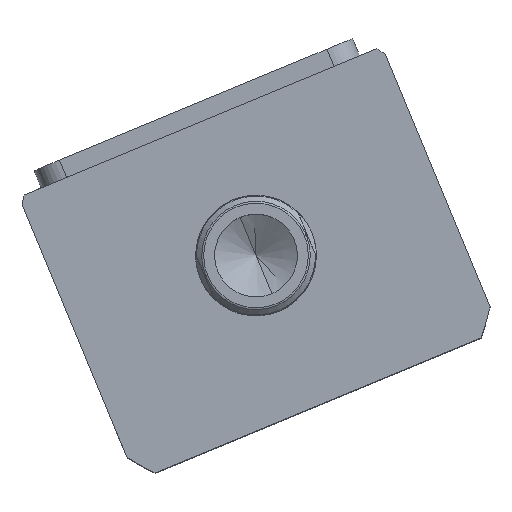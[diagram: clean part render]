
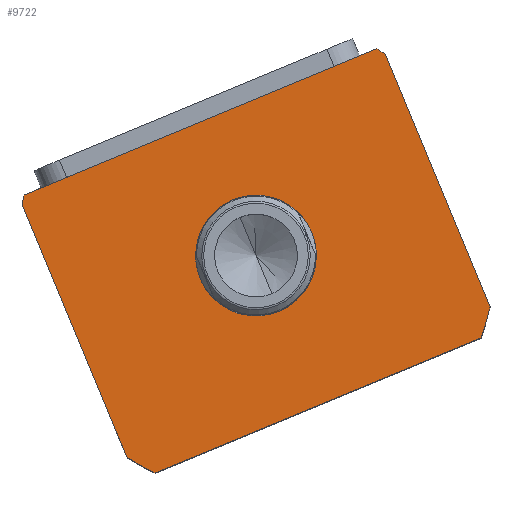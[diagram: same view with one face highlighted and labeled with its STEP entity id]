
A CAD part, top view. The second image highlights one B-rep face of the part: STEP entity #9722.
In plain terms, the highlighted planar face has unit normal (0, 0, 1) as drawn and (0, 0, -1) by its records, which use the part's own axes.
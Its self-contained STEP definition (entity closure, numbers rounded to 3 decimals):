
#70 = ORIENTED_EDGE ( 'NONE', *, *, #7196, .F. ) ;
#107 = VERTEX_POINT ( 'NONE', #16791 ) ;
#450 = VECTOR ( 'NONE', #18972, 1000. ) ;
#862 = ORIENTED_EDGE ( 'NONE', *, *, #15727, .F. ) ;
#980 = CARTESIAN_POINT ( 'NONE',  ( 17.5, 2.5, 0. ) ) ;
#999 = CIRCLE ( 'NONE', #15329, 17.5 ) ;
#1400 = CARTESIAN_POINT ( 'NONE',  ( -57., 42.265, 0. ) ) ;
#1485 = DIRECTION ( 'NONE',  ( 0., 0., 1. ) ) ;
#1755 = CARTESIAN_POINT ( 'NONE',  ( 57., -37.265, 0. ) ) ;
#1757 = EDGE_LOOP ( 'NONE', ( #10692, #17354 ) ) ;
#1819 = VECTOR ( 'NONE', #13503, 1000. ) ;
#1905 = VERTEX_POINT ( 'NONE', #2359 ) ;
#1952 = AXIS2_PLACEMENT_3D ( 'NONE', #11339, #12822, #4022 ) ;
#2249 = CARTESIAN_POINT ( 'NONE',  ( 55.374, 44.5, 0. ) ) ;
#2306 = EDGE_CURVE ( 'NONE', #9597, #3963, #999, .T. ) ;
#2359 = CARTESIAN_POINT ( 'NONE',  ( -51.198, -44.5, 0. ) ) ;
#2606 = EDGE_CURVE ( 'NONE', #3813, #107, #3031, .T. ) ;
#2615 = AXIS2_PLACEMENT_3D ( 'NONE', #15478, #6704, #16965 ) ;
#2780 = EDGE_CURVE ( 'NONE', #3963, #9597, #9430, .T. ) ;
#2845 = DIRECTION ( 'NONE',  ( 0., 0., 1. ) ) ;
#2873 = VECTOR ( 'NONE', #9077, 1000. ) ;
#2909 = CARTESIAN_POINT ( 'NONE',  ( -57., -37.265, 0. ) ) ;
#3031 = LINE ( 'NONE', #7439, #13804 ) ;
#3131 = CARTESIAN_POINT ( 'NONE',  ( 0., 2.5, 0. ) ) ;
#3237 = CARTESIAN_POINT ( 'NONE',  ( -57., -44.5, 0. ) ) ;
#3459 = AXIS2_PLACEMENT_3D ( 'NONE', #10255, #1485, #11725 ) ;
#3467 = CARTESIAN_POINT ( 'NONE',  ( 0., 2.5, 0. ) ) ;
#3813 = VERTEX_POINT ( 'NONE', #2249 ) ;
#3963 = VERTEX_POINT ( 'NONE', #17109 ) ;
#4022 = DIRECTION ( 'NONE',  ( 1., 0., 0. ) ) ;
#4590 = DIRECTION ( 'NONE',  ( 1., 0., 0. ) ) ;
#4919 = DIRECTION ( 'NONE',  ( 1., 0., 0. ) ) ;
#5513 = FACE_BOUND ( 'NONE', #1757, .T. ) ;
#5644 = VERTEX_POINT ( 'NONE', #9320 ) ;
#5690 = LINE ( 'NONE', #3237, #1819 ) ;
#6641 = DIRECTION ( 'NONE',  ( 0., 0., 1. ) ) ;
#6644 = CIRCLE ( 'NONE', #2615, 69.5 ) ;
#6704 = DIRECTION ( 'NONE',  ( 0., 0., 1. ) ) ;
#6777 = PLANE ( 'NONE',  #1952 ) ;
#7196 = EDGE_CURVE ( 'NONE', #5644, #3813, #6644, .T. ) ;
#7439 = CARTESIAN_POINT ( 'NONE',  ( -57., 44.5, 0. ) ) ;
#8144 = CIRCLE ( 'NONE', #14751, 69.5 ) ;
#8909 = EDGE_CURVE ( 'NONE', #14521, #10367, #13062, .T. ) ;
#9076 = AXIS2_PLACEMENT_3D ( 'NONE', #15415, #6641, #16900 ) ;
#9077 = DIRECTION ( 'NONE',  ( 0., 1., 0. ) ) ;
#9171 = EDGE_CURVE ( 'NONE', #13261, #11586, #12614, .T. ) ;
#9206 = EDGE_CURVE ( 'NONE', #11586, #1905, #12138, .T. ) ;
#9320 = CARTESIAN_POINT ( 'NONE',  ( 57., 42.265, 0. ) ) ;
#9430 = CIRCLE ( 'NONE', #9076, 17.5 ) ;
#9597 = VERTEX_POINT ( 'NONE', #980 ) ;
#9722 = ADVANCED_FACE ( 'NONE', ( #5513, #13333 ), #6777, .F. ) ;
#10190 = CARTESIAN_POINT ( 'NONE',  ( -57., 44.5, 0. ) ) ;
#10255 = CARTESIAN_POINT ( 'NONE',  ( 0., 2.5, 0. ) ) ;
#10367 = VERTEX_POINT ( 'NONE', #1755 ) ;
#10692 = ORIENTED_EDGE ( 'NONE', *, *, #2306, .T. ) ;
#10948 = EDGE_LOOP ( 'NONE', ( #70, #11418, #11342, #12821, #17344, #15580, #862, #14420 ) ) ;
#11339 = CARTESIAN_POINT ( 'NONE',  ( 0., 0., 0. ) ) ;
#11342 = ORIENTED_EDGE ( 'NONE', *, *, #8909, .F. ) ;
#11418 = ORIENTED_EDGE ( 'NONE', *, *, #16038, .F. ) ;
#11586 = VERTEX_POINT ( 'NONE', #2909 ) ;
#11620 = CARTESIAN_POINT ( 'NONE',  ( 0., 2.5, 0. ) ) ;
#11725 = DIRECTION ( 'NONE',  ( 1., 0., 0. ) ) ;
#12105 = DIRECTION ( 'NONE',  ( -1., 0., 0. ) ) ;
#12138 = CIRCLE ( 'NONE', #3459, 69.5 ) ;
#12614 = LINE ( 'NONE', #10190, #450 ) ;
#12821 = ORIENTED_EDGE ( 'NONE', *, *, #13499, .F. ) ;
#12822 = DIRECTION ( 'NONE',  ( 0., 0., 1. ) ) ;
#13062 = CIRCLE ( 'NONE', #14649, 69.5 ) ;
#13104 = DIRECTION ( 'NONE',  ( 1., 0., 0. ) ) ;
#13261 = VERTEX_POINT ( 'NONE', #1400 ) ;
#13333 = FACE_OUTER_BOUND ( 'NONE', #10948, .T. ) ;
#13396 = DIRECTION ( 'NONE',  ( 0., 0., 1. ) ) ;
#13499 = EDGE_CURVE ( 'NONE', #1905, #14521, #5690, .T. ) ;
#13503 = DIRECTION ( 'NONE',  ( 1., 0., 0. ) ) ;
#13589 = CARTESIAN_POINT ( 'NONE',  ( 57., 44.5, 0. ) ) ;
#13732 = DIRECTION ( 'NONE',  ( 0., 0., 1. ) ) ;
#13804 = VECTOR ( 'NONE', #12105, 1000. ) ;
#14420 = ORIENTED_EDGE ( 'NONE', *, *, #2606, .F. ) ;
#14521 = VERTEX_POINT ( 'NONE', #18638 ) ;
#14649 = AXIS2_PLACEMENT_3D ( 'NONE', #3467, #13732, #4919 ) ;
#14751 = AXIS2_PLACEMENT_3D ( 'NONE', #3131, #13396, #4590 ) ;
#15329 = AXIS2_PLACEMENT_3D ( 'NONE', #11620, #2845, #13104 ) ;
#15415 = CARTESIAN_POINT ( 'NONE',  ( 0., 2.5, 0. ) ) ;
#15478 = CARTESIAN_POINT ( 'NONE',  ( 0., 2.5, 0. ) ) ;
#15580 = ORIENTED_EDGE ( 'NONE', *, *, #9171, .F. ) ;
#15727 = EDGE_CURVE ( 'NONE', #107, #13261, #8144, .T. ) ;
#16038 = EDGE_CURVE ( 'NONE', #10367, #5644, #18485, .T. ) ;
#16791 = CARTESIAN_POINT ( 'NONE',  ( -55.374, 44.5, 0. ) ) ;
#16900 = DIRECTION ( 'NONE',  ( 1., 0., 0. ) ) ;
#16965 = DIRECTION ( 'NONE',  ( 1., 0., 0. ) ) ;
#17109 = CARTESIAN_POINT ( 'NONE',  ( -17.5, 2.5, 0. ) ) ;
#17344 = ORIENTED_EDGE ( 'NONE', *, *, #9206, .F. ) ;
#17354 = ORIENTED_EDGE ( 'NONE', *, *, #2780, .T. ) ;
#18485 = LINE ( 'NONE', #13589, #2873 ) ;
#18638 = CARTESIAN_POINT ( 'NONE',  ( 51.198, -44.5, 0. ) ) ;
#18972 = DIRECTION ( 'NONE',  ( 0., -1., 0. ) ) ;
